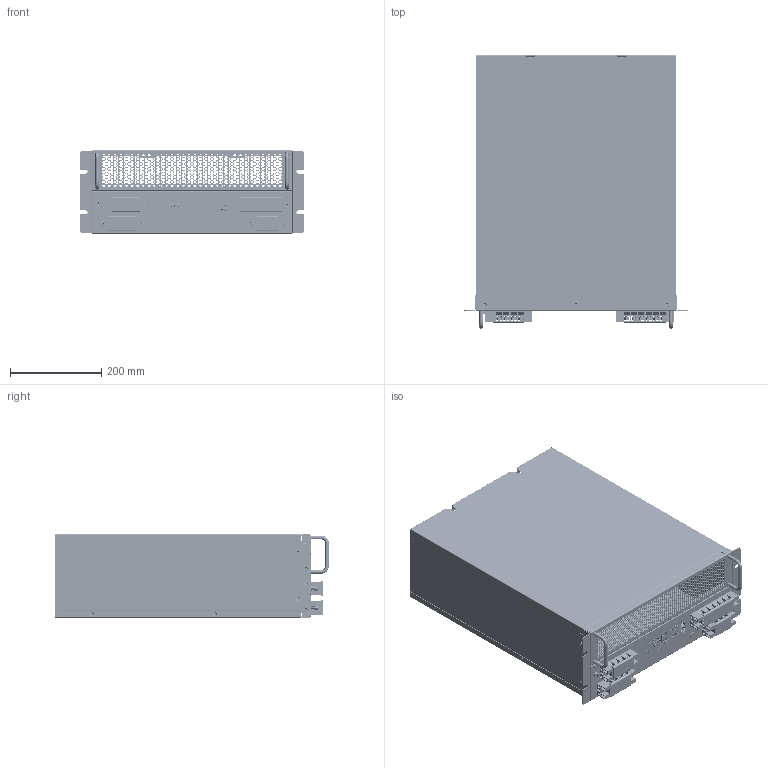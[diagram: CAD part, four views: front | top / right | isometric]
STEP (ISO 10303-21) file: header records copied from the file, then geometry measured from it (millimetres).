
FILE_DESCRIPTION (( 'STEP AP214' ), '1' );
FILE_NAME ('SP30HBG2_»ú¿Ç-20240514-02.STEP', '2025-06-26T08:14:04', ( '' ), ( '' ), 'SwSTEP 2.0', 'SolidWorks 2020', '' );
FILE_SCHEMA (( 'AUTOMOTIVE_DESIGN' ));
Length unit declared in the file: millimetre
Products named in the file (1): SP30HBG2_儂褲-20240514-02
Bounding box: 490 x 600 x 183 mm (x, y, z)
Surface area: 2039979.3 mm2 (no closed solid volume)
Topology: 0 solids, 254 shells, 18026 faces, 48444 edges, 31503 vertices
Faces by surface type: plane 14665, cylinder 1510, bspline 989, cone 783, torus 79
Entity records: 583612 total; most frequent: CARTESIAN_POINT 126207, ORIENTED_EDGE 96856, DIRECTION 84032, EDGE_CURVE 48432, VECTOR 41354, LINE 41354, VERTEX_POINT 31503, AXIS2_PLACEMENT_3D 21339
